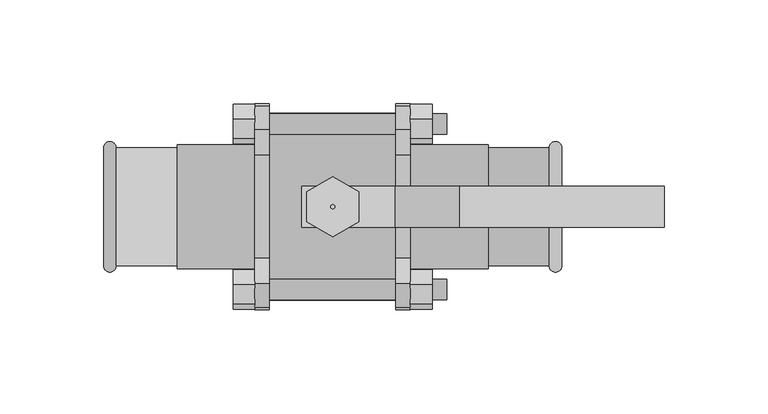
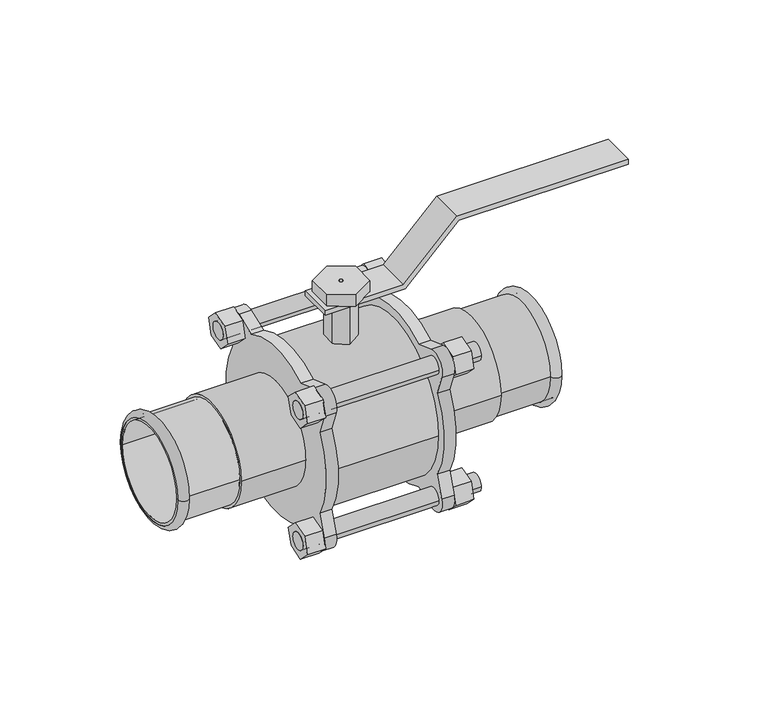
"""IFC4 building model written with IfcOpenShell, lengths in millimetres: valve geometry, NLRS_50_PIA_UN_Geberit Mapress rvs kogelkraan met bedieningshendel, geflensd_PRO_332963 : DN12-100 / d15-108 - OD."""

from ifc_helpers import new_model, si_unit, point, frame, frame_2d, origin, origin_2d, place, context, project, spatial, polyline, circle_curve, ellipse_curve, trimmed, segment, composite_curve, outline, extrude, source, transform, mapped, element, save
from ifc_brep_helpers import plane_surface, cylinder_surface, revolved_surface, advanced_brep


def valve_d77e4738(model_context):
    return source(origin(), model_context, "Body", "SolidModel", [
        extrude(outline(polyline([(68.0, 31.2426407), (99.0, 62.2426407), (99.0, 160.0), (102.0, 160.0), (102.0, 61.0), (71.0, 30.0), (71.0, -15.0), (68.0, -15.0), (68.0, 31.2426407)])), frame((0.0, -10.0, 0.0), z_axis=(0.0, 1.0, 0.0), x_axis=(0.0, 0.0, 1.0)), (0.0, 0.0, 1.0), 20.0),
        advanced_brep(
        [(110.5, -28.5, 0.0), (110.5, 28.5, 0.0), (104.4987073, 28.5, 0.0), (104.4987073, -28.5, 0.0)],
        [
            (0, 1, circle_curve(frame((110.5, 0.0, 0.0), z_axis=(1.0, 0.0, 0.0), x_axis=(0.0, 1.0, 0.0)), 28.5)),
            (1, 2),
            (2, 3, circle_curve(frame((104.4987073, 0.0, 0.0), z_axis=(-1.0, 0.0, 0.0), x_axis=(0.0, 1.0, 0.0)), 28.5)),
            (3, 0),
            (1, 0, circle_curve(frame((110.5, 0.0, 0.0), z_axis=(1.0, 0.0, 0.0), x_axis=(0.0, 1.0, 0.0)), 28.5)),
            (3, 2, circle_curve(frame((104.4987073, 0.0, 0.0), z_axis=(-1.0, 0.0, 0.0), x_axis=(0.0, 1.0, 0.0)), 28.5)),
            (2, 1, circle_curve(frame((107.4993536, 28.5, 0.0), z_axis=(0.0, 0.0, -1.0), x_axis=(1.0, 0.0, 0.0)), 3.0006464)),
            (0, 3, circle_curve(frame((107.4993536, -28.5, 0.0), z_axis=(0.0, 0.0, -1.0), x_axis=(1.0, 0.0, 0.0)), 3.0006464)),
        ],
        [
            revolved_surface(polyline([(104.4987073, 28.5, 0.0), (110.5, 28.5, 0.0)]), (75.0, 0.0, 0.0), (-1.0, 0.0, 0.0)),
            revolved_surface(trimmed(ellipse_curve(frame((107.4993536, 28.5, 0.0), z_axis=(0.0, 0.0, 1.0), x_axis=(1.0, 0.0, 0.0)), 3.0006464, 3.0006464), [point((110.5, 28.5, 0.0))], [point((104.4987073, 28.5, 0.0))], True, "CARTESIAN"), (75.0, 0.0, 0.0), (-1.0, 0.0, 0.0)),
        ],
        [
            (0, [[1, 2, 3, 4]]),
            (0, [[5, -4, 6, -2]]),
            (1, [[-3, 7, -1, 8]]),
            (1, [[-6, -8, -5, -7]]),
        ],
    ),
        advanced_brep(
        [(110.5, -27.0, 0.0), (110.5, 27.0, 0.0), (74.0, 27.0, 0.0), (74.0, -27.0, 0.0), (110.5, -28.5, 0.0), (110.5, 28.5, 0.0), (75.0, -28.5, 0.0), (75.0, 28.5, 0.0)],
        [
            (0, 1, circle_curve(frame((110.5, 0.0, 0.0), z_axis=(1.0, 0.0, 0.0), x_axis=(0.0, 1.0, 0.0)), 27.0)),
            (1, 2),
            (2, 3, circle_curve(frame((74.0, 0.0, 0.0), z_axis=(-1.0, 0.0, 0.0), x_axis=(0.0, 1.0, 0.0)), 27.0)),
            (3, 0),
            (1, 0, circle_curve(frame((110.5, 0.0, 0.0), z_axis=(1.0, 0.0, 0.0), x_axis=(0.0, 1.0, 0.0)), 27.0)),
            (3, 2, circle_curve(frame((74.0, 0.0, 0.0), z_axis=(-1.0, 0.0, 0.0), x_axis=(0.0, 1.0, 0.0)), 27.0)),
            (4, 5, circle_curve(frame((110.5, 0.0, 0.0), z_axis=(1.0, 0.0, 0.0), x_axis=(0.0, 1.0, 0.0)), 28.5)),
            (5, 1),
            (0, 4),
            (5, 4, circle_curve(frame((110.5, 0.0, 0.0), z_axis=(1.0, 0.0, 0.0), x_axis=(0.0, 1.0, 0.0)), 28.5)),
            (6, 7, circle_curve(frame((75.0, 0.0, 0.0), z_axis=(1.0, 0.0, 0.0), x_axis=(0.0, 1.0, 0.0)), 28.5)),
            (7, 5),
            (4, 6),
            (7, 6, circle_curve(frame((75.0, 0.0, 0.0), z_axis=(1.0, 0.0, 0.0), x_axis=(0.0, 1.0, 0.0)), 28.5)),
            (2, 7),
            (6, 3),
        ],
        [
            revolved_surface(polyline([(74.0, 27.0, 0.0), (110.5, 27.0, 0.0)]), (75.0, 0.0, 0.0), (-1.0, 0.0, 0.0)),
            plane_surface(frame((110.5, 0.0, 0.0), z_axis=(1.0, 0.0, 0.0), x_axis=(0.0, 1.0, 0.0))),
            cylinder_surface(frame((75.0, 0.0, 0.0), z_axis=(-1.0, 0.0, 0.0), x_axis=(0.0, 1.0, 0.0)), 28.5),
            revolved_surface(polyline([(75.0, 28.5, 0.0), (74.0, 27.0, 0.0)]), (75.0, 0.0, 0.0), (-1.0, 0.0, 0.0)),
        ],
        [
            (0, [[1, 2, 3, 4]]),
            (0, [[5, -4, 6, -2]]),
            (1, [[7, 8, -1, 9]]),
            (1, [[10, -9, -5, -8]]),
            (2, [[11, 12, -7, 13]]),
            (2, [[14, -13, -10, -12]]),
            (3, [[-3, 15, -11, 16]]),
            (3, [[-6, -16, -14, -15]]),
        ],
    ),
        advanced_brep(
        [(-110.5, 28.5, 0.0), (-110.5, -28.5, 0.0), (-104.4987073, -28.5, 0.0), (-104.4987073, 28.5, 0.0)],
        [
            (0, 1, circle_curve(frame((-110.5, 0.0, 0.0), z_axis=(-1.0, 0.0, 0.0), x_axis=(0.0, -1.0, 0.0)), 28.5)),
            (1, 2),
            (2, 3, circle_curve(frame((-104.4987073, 0.0, 0.0), z_axis=(1.0, 0.0, 0.0), x_axis=(0.0, -1.0, 0.0)), 28.5)),
            (3, 0),
            (1, 0, circle_curve(frame((-110.5, 0.0, 0.0), z_axis=(-1.0, 0.0, 0.0), x_axis=(0.0, -1.0, 0.0)), 28.5)),
            (3, 2, circle_curve(frame((-104.4987073, 0.0, 0.0), z_axis=(1.0, 0.0, 0.0), x_axis=(0.0, -1.0, 0.0)), 28.5)),
            (2, 1, circle_curve(frame((-107.4993536, -28.5, 0.0), z_axis=(0.0, 0.0, -1.0), x_axis=(-1.0, 0.0, 0.0)), 3.0006464)),
            (0, 3, circle_curve(frame((-107.4993536, 28.5, 0.0), z_axis=(0.0, 0.0, -1.0), x_axis=(-1.0, 0.0, 0.0)), 3.0006464)),
        ],
        [
            revolved_surface(polyline([(-104.4987073, -28.5, 0.0), (-110.5, -28.5, 0.0)]), (-75.0, 0.0, 0.0), (1.0, 0.0, 0.0)),
            revolved_surface(trimmed(ellipse_curve(frame((-107.4993536, -28.5, 0.0), z_axis=(0.0, 0.0, 1.0), x_axis=(-1.0, 0.0, 0.0)), 3.0006464, 3.0006464), [point((-110.5, -28.5, 0.0))], [point((-104.4987073, -28.5, 0.0))], True, "CARTESIAN"), (-75.0, 0.0, 0.0), (1.0, 0.0, 0.0)),
        ],
        [
            (0, [[1, 2, 3, 4]]),
            (0, [[5, -4, 6, -2]]),
            (1, [[-3, 7, -1, 8]]),
            (1, [[-6, -8, -5, -7]]),
        ],
    ),
        advanced_brep(
        [(-110.5, 27.0, 0.0), (-110.5, -27.0, 0.0), (-74.0, -27.0, 0.0), (-74.0, 27.0, 0.0), (-110.5, 28.5, 0.0), (-110.5, -28.5, 0.0), (-75.0, 28.5, 0.0), (-75.0, -28.5, 0.0)],
        [
            (0, 1, circle_curve(frame((-110.5, 0.0, 0.0), z_axis=(-1.0, 0.0, 0.0), x_axis=(0.0, -1.0, 0.0)), 27.0)),
            (1, 2),
            (2, 3, circle_curve(frame((-74.0, 0.0, 0.0), z_axis=(1.0, 0.0, 0.0), x_axis=(0.0, -1.0, 0.0)), 27.0)),
            (3, 0),
            (1, 0, circle_curve(frame((-110.5, 0.0, 0.0), z_axis=(-1.0, 0.0, 0.0), x_axis=(0.0, -1.0, 0.0)), 27.0)),
            (3, 2, circle_curve(frame((-74.0, 0.0, 0.0), z_axis=(1.0, 0.0, 0.0), x_axis=(0.0, -1.0, 0.0)), 27.0)),
            (4, 5, circle_curve(frame((-110.5, 0.0, 0.0), z_axis=(-1.0, 0.0, 0.0), x_axis=(0.0, -1.0, 0.0)), 28.5)),
            (5, 1),
            (0, 4),
            (5, 4, circle_curve(frame((-110.5, 0.0, 0.0), z_axis=(-1.0, 0.0, 0.0), x_axis=(0.0, -1.0, 0.0)), 28.5)),
            (6, 7, circle_curve(frame((-75.0, 0.0, 0.0), z_axis=(-1.0, 0.0, 0.0), x_axis=(0.0, -1.0, 0.0)), 28.5)),
            (7, 5),
            (4, 6),
            (7, 6, circle_curve(frame((-75.0, 0.0, 0.0), z_axis=(-1.0, 0.0, 0.0), x_axis=(0.0, -1.0, 0.0)), 28.5)),
            (2, 7),
            (6, 3),
        ],
        [
            revolved_surface(polyline([(-74.0, -27.0, 0.0), (-110.5, -27.0, 0.0)]), (-75.0, 0.0, 0.0), (1.0, 0.0, 0.0)),
            plane_surface(frame((-110.5, 0.0, 0.0), z_axis=(-1.0, 0.0, 0.0), x_axis=(0.0, -1.0, 0.0))),
            cylinder_surface(frame((-75.0, 0.0, 0.0), z_axis=(1.0, 0.0, 0.0), x_axis=(0.0, -1.0, 0.0)), 28.5),
            revolved_surface(polyline([(-75.0, -28.5, 0.0), (-74.0, -27.0, 0.0)]), (-75.0, 0.0, 0.0), (1.0, 0.0, 0.0)),
        ],
        [
            (0, [[1, 2, 3, 4]]),
            (0, [[5, -4, 6, -2]]),
            (1, [[7, 8, -1, 9]]),
            (1, [[10, -9, -5, -8]]),
            (2, [[11, 12, -7, 13]]),
            (2, [[14, -13, -10, -12]]),
            (3, [[-3, 15, -11, 16]]),
            (3, [[-6, -16, -14, -15]]),
        ],
    ),
        advanced_brep(
        [(-48.0, -44.9515331, 39.9515331), (-48.0, -34.9515331, 39.9515331), (-48.0, 34.9515331, 39.9515331), (-48.0, 44.9515331, 39.9515331), (-48.0, -44.9515331, -39.9515331), (-48.0, -34.9515331, -39.9515331), (-48.0, 34.9515331, -39.9515331), (-48.0, 44.9515331, -39.9515331), (55.0, -44.9515331, 39.9515331), (55.0, -34.9515331, 39.9515331), (55.0, 34.9515331, 39.9515331), (55.0, 44.9515331, 39.9515331), (55.0, -44.9515331, -39.9515331), (55.0, -34.9515331, -39.9515331), (55.0, 34.9515331, -39.9515331), (55.0, 44.9515331, -39.9515331), (-37.5, -44.9515331, 39.9515331), (-37.5, -34.9515331, 39.9515331), (37.5, -34.9515331, 39.9515331), (37.5, -44.9515331, 39.9515331), (30.5, -44.9515331, 39.9515331), (30.5, -34.9515331, 39.9515331), (-30.5, -34.9515331, 39.9515331), (-30.5, -44.9515331, 39.9515331), (-37.5, 34.9515331, 39.9515331), (-37.5, 44.9515331, 39.9515331), (37.5, 44.9515331, 39.9515331), (37.5, 34.9515331, 39.9515331), (30.5, 34.9515331, 39.9515331), (30.5, 44.9515331, 39.9515331), (-30.5, 44.9515331, 39.9515331), (-30.5, 34.9515331, 39.9515331), (-37.5, -44.9515331, -39.9515331), (-37.5, -34.9515331, -39.9515331), (37.5, -34.9515331, -39.9515331), (37.5, -44.9515331, -39.9515331), (30.5, -44.9515331, -39.9515331), (30.5, -34.9515331, -39.9515331), (-30.5, -34.9515331, -39.9515331), (-30.5, -44.9515331, -39.9515331), (-37.5, 34.9515331, -39.9515331), (-37.5, 44.9515331, -39.9515331), (37.5, 44.9515331, -39.9515331), (37.5, 34.9515331, -39.9515331), (30.5, 34.9515331, -39.9515331), (30.5, 44.9515331, -39.9515331), (-30.5, 44.9515331, -39.9515331), (-30.5, 34.9515331, -39.9515331), (30.5, -43.4565382, 24.7291181), (30.5, -47.9389204, 37.0443619), (30.5, -37.0443619, 47.9389204), (30.5, -24.7291181, 43.4565382), (30.5, 24.7291181, 43.4565382), (30.5, 37.0443619, 47.9389204), (30.5, 47.9389204, 37.0443619), (30.5, 43.4565382, 24.7291181), (30.5, 43.4565382, -24.7291181), (30.5, 47.9389204, -37.0443619), (30.5, 37.0443619, -47.9389204), (30.5, 24.7291181, -43.4565382), (30.5, -24.7291181, -43.4565382), (30.5, -37.0443619, -47.9389204), (30.5, -47.9389204, -37.0443619), (30.5, -43.4565382, -24.7291181), (37.5, -43.4565382, 24.7291181), (37.5, -43.4565382, -24.7291181), (37.5, -47.9389204, -37.0443619), (37.5, -37.0443619, -47.9389204), (37.5, -24.7291181, -43.4565382), (37.5, 24.7291181, -43.4565382), (37.5, 37.0443619, -47.9389204), (37.5, 47.9389204, -37.0443619), (37.5, 43.4565382, -24.7291181), (37.5, 43.4565382, 24.7291181), (37.5, 47.9389204, 37.0443619), (37.5, 37.0443619, 47.9389204), (37.5, 24.7291181, 43.4565382), (37.5, -24.7291181, 43.4565382), (37.5, -37.0443619, 47.9389204), (37.5, -47.9389204, 37.0443619), (-37.5, -43.4565382, 24.7291181), (-37.5, -47.9389204, 37.0443619), (-37.5, -37.0443619, 47.9389204), (-37.5, -24.7291181, 43.4565382), (-37.5, 24.7291181, 43.4565382), (-37.5, 37.0443619, 47.9389204), (-37.5, 47.9389204, 37.0443619), (-37.5, 43.4565382, 24.7291181), (-37.5, 43.4565382, -24.7291181), (-37.5, 47.9389204, -37.0443619), (-37.5, 37.0443619, -47.9389204), (-37.5, 24.7291181, -43.4565382), (-37.5, -24.7291181, -43.4565382), (-37.5, -37.0443619, -47.9389204), (-37.5, -47.9389204, -37.0443619), (-37.5, -43.4565382, -24.7291181), (-30.5, -43.4565382, 24.7291181), (-30.5, -43.4565382, -24.7291181), (-30.5, -47.9389204, -37.0443619), (-30.5, -37.0443619, -47.9389204), (-30.5, -24.7291181, -43.4565382), (-30.5, 24.7291181, -43.4565382), (-30.5, 37.0443619, -47.9389204), (-30.5, 47.9389204, -37.0443619), (-30.5, 43.4565382, -24.7291181), (-30.5, 43.4565382, 24.7291181), (-30.5, 47.9389204, 37.0443619), (-30.5, 37.0443619, 47.9389204), (-30.5, 24.7291181, 43.4565382), (-30.5, -24.7291181, 43.4565382), (-30.5, -37.0443619, 47.9389204), (-30.5, -47.9389204, 37.0443619)],
        [
            (0, 1, circle_curve(frame((-48.0, -39.9515331, 39.9515331), z_axis=(-1.0, 0.0, 0.0), x_axis=(0.0, 1.0, 0.0)), 5.0)),
            (1, 0, circle_curve(frame((-48.0, -39.9515331, 39.9515331), z_axis=(-1.0, 0.0, 0.0), x_axis=(0.0, 1.0, 0.0)), 5.0)),
            (2, 3, circle_curve(frame((-48.0, 39.9515331, 39.9515331), z_axis=(-1.0, 0.0, 0.0), x_axis=(0.0, 1.0, 0.0)), 5.0)),
            (3, 2, circle_curve(frame((-48.0, 39.9515331, 39.9515331), z_axis=(-1.0, 0.0, 0.0), x_axis=(0.0, 1.0, 0.0)), 5.0)),
            (4, 5, circle_curve(frame((-48.0, -39.9515331, -39.9515331), z_axis=(-1.0, 0.0, 0.0), x_axis=(0.0, 1.0, 0.0)), 5.0)),
            (5, 4, circle_curve(frame((-48.0, -39.9515331, -39.9515331), z_axis=(-1.0, 0.0, 0.0), x_axis=(0.0, 1.0, 0.0)), 5.0)),
            (6, 7, circle_curve(frame((-48.0, 39.9515331, -39.9515331), z_axis=(-1.0, 0.0, 0.0), x_axis=(0.0, 1.0, 0.0)), 5.0)),
            (7, 6, circle_curve(frame((-48.0, 39.9515331, -39.9515331), z_axis=(-1.0, 0.0, 0.0), x_axis=(0.0, 1.0, 0.0)), 5.0)),
            (8, 9, circle_curve(frame((55.0, -39.9515331, 39.9515331), z_axis=(1.0, 0.0, 0.0), x_axis=(0.0, 1.0, 0.0)), 5.0)),
            (9, 8, circle_curve(frame((55.0, -39.9515331, 39.9515331), z_axis=(1.0, 0.0, 0.0), x_axis=(0.0, 1.0, 0.0)), 5.0)),
            (10, 11, circle_curve(frame((55.0, 39.9515331, 39.9515331), z_axis=(1.0, 0.0, 0.0), x_axis=(0.0, 1.0, 0.0)), 5.0)),
            (11, 10, circle_curve(frame((55.0, 39.9515331, 39.9515331), z_axis=(1.0, 0.0, 0.0), x_axis=(0.0, 1.0, 0.0)), 5.0)),
            (12, 13, circle_curve(frame((55.0, -39.9515331, -39.9515331), z_axis=(1.0, 0.0, 0.0), x_axis=(0.0, 1.0, 0.0)), 5.0)),
            (13, 12, circle_curve(frame((55.0, -39.9515331, -39.9515331), z_axis=(1.0, 0.0, 0.0), x_axis=(0.0, 1.0, 0.0)), 5.0)),
            (14, 15, circle_curve(frame((55.0, 39.9515331, -39.9515331), z_axis=(1.0, 0.0, 0.0), x_axis=(0.0, 1.0, 0.0)), 5.0)),
            (15, 14, circle_curve(frame((55.0, 39.9515331, -39.9515331), z_axis=(1.0, 0.0, 0.0), x_axis=(0.0, 1.0, 0.0)), 5.0)),
            (0, 16),
            (16, 17, circle_curve(frame((-37.5, -39.9515331, 39.9515331), z_axis=(-1.0, 0.0, 0.0), x_axis=(0.0, 1.0, 0.0)), 5.0)),
            (17, 1),
            (9, 18),
            (18, 19, circle_curve(frame((37.5, -39.9515331, 39.9515331), z_axis=(1.0, 0.0, 0.0), x_axis=(0.0, 1.0, 0.0)), 5.0)),
            (19, 8),
            (20, 21, circle_curve(frame((30.5, -39.9515331, 39.9515331), z_axis=(-1.0, 0.0, 0.0), x_axis=(0.0, 1.0, 0.0)), 5.0)),
            (21, 22),
            (22, 23, circle_curve(frame((-30.5, -39.9515331, 39.9515331), z_axis=(1.0, 0.0, 0.0), x_axis=(0.0, 1.0, 0.0)), 5.0)),
            (23, 20),
            (17, 16, circle_curve(frame((-37.5, -39.9515331, 39.9515331), z_axis=(-1.0, 0.0, 0.0), x_axis=(0.0, 1.0, 0.0)), 5.0)),
            (19, 18, circle_curve(frame((37.5, -39.9515331, 39.9515331), z_axis=(1.0, 0.0, 0.0), x_axis=(0.0, 1.0, 0.0)), 5.0)),
            (21, 20, circle_curve(frame((30.5, -39.9515331, 39.9515331), z_axis=(-1.0, 0.0, 0.0), x_axis=(0.0, 1.0, 0.0)), 5.0)),
            (23, 22, circle_curve(frame((-30.5, -39.9515331, 39.9515331), z_axis=(1.0, 0.0, 0.0), x_axis=(0.0, 1.0, 0.0)), 5.0)),
            (2, 24),
            (24, 25, circle_curve(frame((-37.5, 39.9515331, 39.9515331), z_axis=(-1.0, 0.0, 0.0), x_axis=(0.0, 1.0, 0.0)), 5.0)),
            (25, 3),
            (11, 26),
            (26, 27, circle_curve(frame((37.5, 39.9515331, 39.9515331), z_axis=(1.0, 0.0, 0.0), x_axis=(0.0, 1.0, 0.0)), 5.0)),
            (27, 10),
            (28, 29, circle_curve(frame((30.5, 39.9515331, 39.9515331), z_axis=(-1.0, 0.0, 0.0), x_axis=(0.0, 1.0, 0.0)), 5.0)),
            (29, 30),
            (30, 31, circle_curve(frame((-30.5, 39.9515331, 39.9515331), z_axis=(1.0, 0.0, 0.0), x_axis=(0.0, 1.0, 0.0)), 5.0)),
            (31, 28),
            (25, 24, circle_curve(frame((-37.5, 39.9515331, 39.9515331), z_axis=(-1.0, 0.0, 0.0), x_axis=(0.0, 1.0, 0.0)), 5.0)),
            (27, 26, circle_curve(frame((37.5, 39.9515331, 39.9515331), z_axis=(1.0, 0.0, 0.0), x_axis=(0.0, 1.0, 0.0)), 5.0)),
            (29, 28, circle_curve(frame((30.5, 39.9515331, 39.9515331), z_axis=(-1.0, 0.0, 0.0), x_axis=(0.0, 1.0, 0.0)), 5.0)),
            (31, 30, circle_curve(frame((-30.5, 39.9515331, 39.9515331), z_axis=(1.0, 0.0, 0.0), x_axis=(0.0, 1.0, 0.0)), 5.0)),
            (4, 32),
            (32, 33, circle_curve(frame((-37.5, -39.9515331, -39.9515331), z_axis=(-1.0, 0.0, 0.0), x_axis=(0.0, 1.0, 0.0)), 5.0)),
            (33, 5),
            (13, 34),
            (34, 35, circle_curve(frame((37.5, -39.9515331, -39.9515331), z_axis=(1.0, 0.0, 0.0), x_axis=(0.0, 1.0, 0.0)), 5.0)),
            (35, 12),
            (36, 37, circle_curve(frame((30.5, -39.9515331, -39.9515331), z_axis=(-1.0, 0.0, 0.0), x_axis=(0.0, 1.0, 0.0)), 5.0)),
            (37, 38),
            (38, 39, circle_curve(frame((-30.5, -39.9515331, -39.9515331), z_axis=(1.0, 0.0, 0.0), x_axis=(0.0, 1.0, 0.0)), 5.0)),
            (39, 36),
            (33, 32, circle_curve(frame((-37.5, -39.9515331, -39.9515331), z_axis=(-1.0, 0.0, 0.0), x_axis=(0.0, 1.0, 0.0)), 5.0)),
            (35, 34, circle_curve(frame((37.5, -39.9515331, -39.9515331), z_axis=(1.0, 0.0, 0.0), x_axis=(0.0, 1.0, 0.0)), 5.0)),
            (37, 36, circle_curve(frame((30.5, -39.9515331, -39.9515331), z_axis=(-1.0, 0.0, 0.0), x_axis=(0.0, 1.0, 0.0)), 5.0)),
            (39, 38, circle_curve(frame((-30.5, -39.9515331, -39.9515331), z_axis=(1.0, 0.0, 0.0), x_axis=(0.0, 1.0, 0.0)), 5.0)),
            (6, 40),
            (40, 41, circle_curve(frame((-37.5, 39.9515331, -39.9515331), z_axis=(-1.0, 0.0, 0.0), x_axis=(0.0, 1.0, 0.0)), 5.0)),
            (41, 7),
            (15, 42),
            (42, 43, circle_curve(frame((37.5, 39.9515331, -39.9515331), z_axis=(1.0, 0.0, 0.0), x_axis=(0.0, 1.0, 0.0)), 5.0)),
            (43, 14),
            (44, 45, circle_curve(frame((30.5, 39.9515331, -39.9515331), z_axis=(-1.0, 0.0, 0.0), x_axis=(0.0, 1.0, 0.0)), 5.0)),
            (45, 46),
            (46, 47, circle_curve(frame((-30.5, 39.9515331, -39.9515331), z_axis=(1.0, 0.0, 0.0), x_axis=(0.0, 1.0, 0.0)), 5.0)),
            (47, 44),
            (41, 40, circle_curve(frame((-37.5, 39.9515331, -39.9515331), z_axis=(-1.0, 0.0, 0.0), x_axis=(0.0, 1.0, 0.0)), 5.0)),
            (43, 42, circle_curve(frame((37.5, 39.9515331, -39.9515331), z_axis=(1.0, 0.0, 0.0), x_axis=(0.0, 1.0, 0.0)), 5.0)),
            (45, 44, circle_curve(frame((30.5, 39.9515331, -39.9515331), z_axis=(-1.0, 0.0, 0.0), x_axis=(0.0, 1.0, 0.0)), 5.0)),
            (47, 46, circle_curve(frame((-30.5, 39.9515331, -39.9515331), z_axis=(1.0, 0.0, 0.0), x_axis=(0.0, 1.0, 0.0)), 5.0)),
            (48, 49),
            (49, 50, circle_curve(frame((30.5, -39.9515331, 39.9515331), z_axis=(-1.0, 0.0, 0.0), x_axis=(0.0, 1.0, 0.0)), 8.5)),
            (50, 51),
            (51, 52, circle_curve(frame((30.5, 0.0, 0.0), z_axis=(-1.0, 0.0, 0.0), x_axis=(0.0, 1.0, 0.0)), 50.0)),
            (52, 53),
            (53, 54, circle_curve(frame((30.5, 39.9515331, 39.9515331), z_axis=(-1.0, 0.0, 0.0), x_axis=(0.0, 1.0, 0.0)), 8.5)),
            (54, 55),
            (55, 56, circle_curve(frame((30.5, 0.0, 0.0), z_axis=(-1.0, 0.0, 0.0), x_axis=(0.0, 1.0, 0.0)), 50.0)),
            (56, 57),
            (57, 58, circle_curve(frame((30.5, 39.9515331, -39.9515331), z_axis=(-1.0, 0.0, 0.0), x_axis=(0.0, 1.0, 0.0)), 8.5)),
            (58, 59),
            (59, 60, circle_curve(frame((30.5, 0.0, 0.0), z_axis=(-1.0, 0.0, 0.0), x_axis=(0.0, 1.0, 0.0)), 50.0)),
            (60, 61),
            (61, 62, circle_curve(frame((30.5, -39.9515331, -39.9515331), z_axis=(-1.0, 0.0, 0.0), x_axis=(0.0, 1.0, 0.0)), 8.5)),
            (62, 63),
            (63, 48, circle_curve(frame((30.5, 0.0, 0.0), z_axis=(-1.0, 0.0, 0.0), x_axis=(0.0, 1.0, 0.0)), 50.0)),
            (64, 65, circle_curve(frame((37.5, 0.0, 0.0), z_axis=(1.0, 0.0, 0.0), x_axis=(0.0, 1.0, 0.0)), 50.0)),
            (65, 66),
            (66, 67, circle_curve(frame((37.5, -39.9515331, -39.9515331), z_axis=(1.0, 0.0, 0.0), x_axis=(0.0, 1.0, 0.0)), 8.5)),
            (67, 68),
            (68, 69, circle_curve(frame((37.5, 0.0, 0.0), z_axis=(1.0, 0.0, 0.0), x_axis=(0.0, 1.0, 0.0)), 50.0)),
            (69, 70),
            (70, 71, circle_curve(frame((37.5, 39.9515331, -39.9515331), z_axis=(1.0, 0.0, 0.0), x_axis=(0.0, 1.0, 0.0)), 8.5)),
            (71, 72),
            (72, 73, circle_curve(frame((37.5, 0.0, 0.0), z_axis=(1.0, 0.0, 0.0), x_axis=(0.0, 1.0, 0.0)), 50.0)),
            (73, 74),
            (74, 75, circle_curve(frame((37.5, 39.9515331, 39.9515331), z_axis=(1.0, 0.0, 0.0), x_axis=(0.0, 1.0, 0.0)), 8.5)),
            (75, 76),
            (76, 77, circle_curve(frame((37.5, 0.0, 0.0), z_axis=(1.0, 0.0, 0.0), x_axis=(0.0, 1.0, 0.0)), 50.0)),
            (77, 78),
            (78, 79, circle_curve(frame((37.5, -39.9515331, 39.9515331), z_axis=(1.0, 0.0, 0.0), x_axis=(0.0, 1.0, 0.0)), 8.5)),
            (79, 64),
            (48, 64),
            (79, 49),
            (78, 50),
            (77, 51),
            (76, 52),
            (75, 53),
            (74, 54),
            (73, 55),
            (72, 56),
            (71, 57),
            (70, 58),
            (69, 59),
            (68, 60),
            (67, 61),
            (66, 62),
            (65, 63),
            (80, 81),
            (81, 82, circle_curve(frame((-37.5, -39.9515331, 39.9515331), z_axis=(-1.0, 0.0, 0.0), x_axis=(0.0, 1.0, 0.0)), 8.5)),
            (82, 83),
            (83, 84, circle_curve(frame((-37.5, 0.0, 0.0), z_axis=(-1.0, 0.0, 0.0), x_axis=(0.0, 1.0, 0.0)), 50.0)),
            (84, 85),
            (85, 86, circle_curve(frame((-37.5, 39.9515331, 39.9515331), z_axis=(-1.0, 0.0, 0.0), x_axis=(0.0, 1.0, 0.0)), 8.5)),
            (86, 87),
            (87, 88, circle_curve(frame((-37.5, 0.0, 0.0), z_axis=(-1.0, 0.0, 0.0), x_axis=(0.0, 1.0, 0.0)), 50.0)),
            (88, 89),
            (89, 90, circle_curve(frame((-37.5, 39.9515331, -39.9515331), z_axis=(-1.0, 0.0, 0.0), x_axis=(0.0, 1.0, 0.0)), 8.5)),
            (90, 91),
            (91, 92, circle_curve(frame((-37.5, 0.0, 0.0), z_axis=(-1.0, 0.0, 0.0), x_axis=(0.0, 1.0, 0.0)), 50.0)),
            (92, 93),
            (93, 94, circle_curve(frame((-37.5, -39.9515331, -39.9515331), z_axis=(-1.0, 0.0, 0.0), x_axis=(0.0, 1.0, 0.0)), 8.5)),
            (94, 95),
            (95, 80, circle_curve(frame((-37.5, 0.0, 0.0), z_axis=(-1.0, 0.0, 0.0), x_axis=(0.0, 1.0, 0.0)), 50.0)),
            (96, 97, circle_curve(frame((-30.5, 0.0, 0.0), z_axis=(1.0, 0.0, 0.0), x_axis=(0.0, 1.0, 0.0)), 50.0)),
            (97, 98),
            (98, 99, circle_curve(frame((-30.5, -39.9515331, -39.9515331), z_axis=(1.0, 0.0, 0.0), x_axis=(0.0, 1.0, 0.0)), 8.5)),
            (99, 100),
            (100, 101, circle_curve(frame((-30.5, 0.0, 0.0), z_axis=(1.0, 0.0, 0.0), x_axis=(0.0, 1.0, 0.0)), 50.0)),
            (101, 102),
            (102, 103, circle_curve(frame((-30.5, 39.9515331, -39.9515331), z_axis=(1.0, 0.0, 0.0), x_axis=(0.0, 1.0, 0.0)), 8.5)),
            (103, 104),
            (104, 105, circle_curve(frame((-30.5, 0.0, 0.0), z_axis=(1.0, 0.0, 0.0), x_axis=(0.0, 1.0, 0.0)), 50.0)),
            (105, 106),
            (106, 107, circle_curve(frame((-30.5, 39.9515331, 39.9515331), z_axis=(1.0, 0.0, 0.0), x_axis=(0.0, 1.0, 0.0)), 8.5)),
            (107, 108),
            (108, 109, circle_curve(frame((-30.5, 0.0, 0.0), z_axis=(1.0, 0.0, 0.0), x_axis=(0.0, 1.0, 0.0)), 50.0)),
            (109, 110),
            (110, 111, circle_curve(frame((-30.5, -39.9515331, 39.9515331), z_axis=(1.0, 0.0, 0.0), x_axis=(0.0, 1.0, 0.0)), 8.5)),
            (111, 96),
            (80, 96),
            (111, 81),
            (110, 82),
            (109, 83),
            (108, 84),
            (107, 85),
            (106, 86),
            (105, 87),
            (104, 88),
            (103, 89),
            (102, 90),
            (101, 91),
            (100, 92),
            (99, 93),
            (98, 94),
            (97, 95),
        ],
        [
            plane_surface(frame((-48.0, 0.0, 0.0), z_axis=(-1.0, 0.0, 0.0), x_axis=(0.0, 0.0, 1.0))),
            plane_surface(frame((55.0, 0.0, 0.0), z_axis=(1.0, 0.0, 0.0), x_axis=(0.0, 0.0, 1.0))),
            cylinder_surface(frame((-48.0, -39.9515331, 39.9515331), z_axis=(-1.0, 0.0, 0.0), x_axis=(0.0, 1.0, 0.0)), 5.0),
            cylinder_surface(frame((-48.0, 39.9515331, 39.9515331), z_axis=(-1.0, 0.0, 0.0), x_axis=(0.0, 1.0, 0.0)), 5.0),
            cylinder_surface(frame((-48.0, -39.9515331, -39.9515331), z_axis=(-1.0, 0.0, 0.0), x_axis=(0.0, 1.0, 0.0)), 5.0),
            cylinder_surface(frame((-48.0, 39.9515331, -39.9515331), z_axis=(-1.0, 0.0, 0.0), x_axis=(0.0, 1.0, 0.0)), 5.0),
            plane_surface(frame((30.5, 0.0, 0.0), z_axis=(-1.0, 0.0, 0.0), x_axis=(0.0, 0.0, 1.0))),
            plane_surface(frame((37.5, 0.0, 0.0), z_axis=(1.0, 0.0, 0.0), x_axis=(0.0, 0.0, 1.0))),
            plane_surface(frame((30.5, -43.4565382, 24.7291181), z_axis=(0.0, -0.9396926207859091, -0.3420201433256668), x_axis=(1.0, 0.0, 0.0))),
            cylinder_surface(frame((30.5, -39.9515331, 39.9515331), z_axis=(-1.0, 0.0, 0.0), x_axis=(0.0, 1.0, 0.0)), 8.5),
            plane_surface(frame((30.5, -37.0443619, 47.9389204), z_axis=(0.0, 0.34202014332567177, 0.9396926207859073), x_axis=(1.0, 0.0, 0.0))),
            cylinder_surface(frame((30.5, 0.0, 0.0), z_axis=(-1.0, 0.0, 0.0), x_axis=(0.0, 1.0, 0.0)), 50.0),
            plane_surface(frame((30.5, 24.7291181, 43.4565382), z_axis=(0.0, -0.34202014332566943, 0.9396926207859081), x_axis=(1.0, 0.0, 0.0))),
            cylinder_surface(frame((30.5, 39.9515331, 39.9515331), z_axis=(-1.0, 0.0, 0.0), x_axis=(0.0, 1.0, 0.0)), 8.5),
            plane_surface(frame((30.5, 47.9389204, 37.0443619), z_axis=(0.0, 0.9396926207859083, -0.34202014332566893), x_axis=(1.0, 0.0, 0.0))),
            plane_surface(frame((30.5, 43.4565382, -24.7291181), z_axis=(0.0, 0.9396926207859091, 0.34202014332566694), x_axis=(1.0, 0.0, 0.0))),
            cylinder_surface(frame((30.5, 39.9515331, -39.9515331), z_axis=(-1.0, 0.0, 0.0), x_axis=(0.0, 1.0, 0.0)), 8.5),
            plane_surface(frame((30.5, 37.0443619, -47.9389204), z_axis=(0.0, -0.3420201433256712, -0.9396926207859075), x_axis=(1.0, 0.0, 0.0))),
            plane_surface(frame((30.5, -24.7291181, -43.4565382), z_axis=(0.0, 0.34202014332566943, -0.9396926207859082), x_axis=(1.0, 0.0, 0.0))),
            cylinder_surface(frame((30.5, -39.9515331, -39.9515331), z_axis=(-1.0, 0.0, 0.0), x_axis=(0.0, 1.0, 0.0)), 8.5),
            plane_surface(frame((30.5, -47.9389204, -37.0443619), z_axis=(0.0, -0.9396926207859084, 0.34202014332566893), x_axis=(1.0, 0.0, 0.0))),
            plane_surface(frame((-37.5, 0.0, 0.0), z_axis=(-1.0, 0.0, 0.0), x_axis=(0.0, 0.0, 1.0))),
            plane_surface(frame((-30.5, 0.0, 0.0), z_axis=(1.0, 0.0, 0.0), x_axis=(0.0, 0.0, 1.0))),
            plane_surface(frame((-37.5, -43.4565382, 24.7291181), z_axis=(0.0, -0.9396926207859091, -0.3420201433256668), x_axis=(1.0, 0.0, 0.0))),
            cylinder_surface(frame((-37.5, -39.9515331, 39.9515331), z_axis=(-1.0, 0.0, 0.0), x_axis=(0.0, 1.0, 0.0)), 8.5),
            plane_surface(frame((-37.5, -37.0443619, 47.9389204), z_axis=(0.0, 0.34202014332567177, 0.9396926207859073), x_axis=(1.0, 0.0, 0.0))),
            cylinder_surface(frame((-37.5, 0.0, 0.0), z_axis=(-1.0, 0.0, 0.0), x_axis=(0.0, 1.0, 0.0)), 50.0),
            plane_surface(frame((-37.5, 24.7291181, 43.4565382), z_axis=(0.0, -0.34202014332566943, 0.9396926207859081), x_axis=(1.0, 0.0, 0.0))),
            cylinder_surface(frame((-37.5, 39.9515331, 39.9515331), z_axis=(-1.0, 0.0, 0.0), x_axis=(0.0, 1.0, 0.0)), 8.5),
            plane_surface(frame((-37.5, 47.9389204, 37.0443619), z_axis=(0.0, 0.9396926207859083, -0.34202014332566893), x_axis=(1.0, 0.0, 0.0))),
            plane_surface(frame((-37.5, 43.4565382, -24.7291181), z_axis=(0.0, 0.9396926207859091, 0.34202014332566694), x_axis=(1.0, 0.0, 0.0))),
            cylinder_surface(frame((-37.5, 39.9515331, -39.9515331), z_axis=(-1.0, 0.0, 0.0), x_axis=(0.0, 1.0, 0.0)), 8.5),
            plane_surface(frame((-37.5, 37.0443619, -47.9389204), z_axis=(0.0, -0.3420201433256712, -0.9396926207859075), x_axis=(1.0, 0.0, 0.0))),
            plane_surface(frame((-37.5, -24.7291181, -43.4565382), z_axis=(0.0, 0.34202014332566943, -0.9396926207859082), x_axis=(1.0, 0.0, 0.0))),
            cylinder_surface(frame((-37.5, -39.9515331, -39.9515331), z_axis=(-1.0, 0.0, 0.0), x_axis=(0.0, 1.0, 0.0)), 8.5),
            plane_surface(frame((-37.5, -47.9389204, -37.0443619), z_axis=(0.0, -0.9396926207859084, 0.34202014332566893), x_axis=(1.0, 0.0, 0.0))),
        ],
        [
            (0, [[1, 2]]),
            (0, [[3, 4]]),
            (0, [[5, 6]]),
            (0, [[7, 8]]),
            (1, [[9, 10]]),
            (1, [[11, 12]]),
            (1, [[13, 14]]),
            (1, [[15, 16]]),
            (2, [[-1, 17, 18, 19]]),
            (2, [[-10, 20, 21, 22]]),
            (2, [[23, 24, 25, 26]]),
            (2, [[-2, -19, 27, -17]]),
            (2, [[-9, -22, 28, -20]]),
            (2, [[29, -26, 30, -24]]),
            (3, [[-3, 31, 32, 33]]),
            (3, [[-12, 34, 35, 36]]),
            (3, [[37, 38, 39, 40]]),
            (3, [[-4, -33, 41, -31]]),
            (3, [[-11, -36, 42, -34]]),
            (3, [[43, -40, 44, -38]]),
            (4, [[-5, 45, 46, 47]]),
            (4, [[-14, 48, 49, 50]]),
            (4, [[51, 52, 53, 54]]),
            (4, [[-6, -47, 55, -45]]),
            (4, [[-13, -50, 56, -48]]),
            (4, [[57, -54, 58, -52]]),
            (5, [[-7, 59, 60, 61]]),
            (5, [[-16, 62, 63, 64]]),
            (5, [[65, 66, 67, 68]]),
            (5, [[-8, -61, 69, -59]]),
            (5, [[-15, -64, 70, -62]]),
            (5, [[71, -68, 72, -66]]),
            (6, [[73, 74, 75, 76, 77, 78, 79, 80, 81, 82, 83, 84, 85, 86, 87, 88], [-23, -29], [-37, -43], [-51, -57], [-65, -71]]),
            (7, [[89, 90, 91, 92, 93, 94, 95, 96, 97, 98, 99, 100, 101, 102, 103, 104], [-21, -28], [-35, -42], [-49, -56], [-63, -70]]),
            (8, [[-73, 105, -104, 106]]),
            (9, [[-74, -106, -103, 107]]),
            (10, [[-75, -107, -102, 108]]),
            (11, [[-76, -108, -101, 109]]),
            (12, [[-77, -109, -100, 110]]),
            (13, [[-78, -110, -99, 111]]),
            (14, [[-79, -111, -98, 112]]),
            (11, [[-80, -112, -97, 113]]),
            (15, [[-81, -113, -96, 114]]),
            (16, [[-82, -114, -95, 115]]),
            (17, [[-83, -115, -94, 116]]),
            (11, [[-84, -116, -93, 117]]),
            (18, [[-85, -117, -92, 118]]),
            (19, [[-86, -118, -91, 119]]),
            (20, [[-87, -119, -90, 120]]),
            (11, [[-88, -120, -89, -105]]),
            (21, [[121, 122, 123, 124, 125, 126, 127, 128, 129, 130, 131, 132, 133, 134, 135, 136], [-18, -27], [-32, -41], [-46, -55], [-60, -69]]),
            (22, [[137, 138, 139, 140, 141, 142, 143, 144, 145, 146, 147, 148, 149, 150, 151, 152], [-25, -30], [-39, -44], [-53, -58], [-67, -72]]),
            (23, [[-121, 153, -152, 154]]),
            (24, [[-122, -154, -151, 155]]),
            (25, [[-123, -155, -150, 156]]),
            (26, [[-124, -156, -149, 157]]),
            (27, [[-125, -157, -148, 158]]),
            (28, [[-126, -158, -147, 159]]),
            (29, [[-127, -159, -146, 160]]),
            (26, [[-128, -160, -145, 161]]),
            (30, [[-129, -161, -144, 162]]),
            (31, [[-130, -162, -143, 163]]),
            (32, [[-131, -163, -142, 164]]),
            (26, [[-132, -164, -141, 165]]),
            (33, [[-133, -165, -140, 166]]),
            (34, [[-134, -166, -139, 167]]),
            (35, [[-135, -167, -138, 168]]),
            (26, [[-136, -168, -137, -153]]),
        ],
    ),
        advanced_brep(
        [(-30.5, -45.0, 0.0), (-30.5, 45.0, 0.0), (30.5, -45.0, 0.0), (30.5, 45.0, 0.0), (0.0, -8.660254, 44.1588043), (-7.5, -4.330127, 44.7911822), (-7.5, 4.330127, 44.7911822), (0.0, 8.660254, 44.1588043), (7.5, 4.330127, 44.7911822), (7.5, -4.330127, 44.7911822), (-1.0, -0.5773503, 44.9962961), (0.0, -1.1547005, 44.9851827), (1.0, -0.5773503, 44.9962961), (1.0, 0.5773503, 44.9962961), (0.0, 1.1547005, 44.9851827), (-1.0, 0.5773503, 44.9962961), (-12.5, -7.2168784, 78.0), (-12.5, -7.2168784, 71.0), (0.0, -14.4337567, 71.0), (0.0, -14.4337567, 78.0), (-1.0, -0.5773503, 78.0), (0.0, -1.1547005, 78.0), (0.0, -8.660254, 71.0), (-7.5, -4.330127, 71.0), (12.5, -7.2168784, 71.0), (12.5, -7.2168784, 78.0), (1.0, -0.5773503, 78.0), (7.5, -4.330127, 71.0), (12.5, 7.2168784, 78.0), (12.5, 7.2168784, 71.0), (0.0, 14.4337567, 71.0), (0.0, 14.4337567, 78.0), (1.0, 0.5773503, 78.0), (0.0, 1.1547005, 78.0), (0.0, 8.660254, 71.0), (7.5, 4.330127, 71.0), (-12.5, 7.2168784, 71.0), (-12.5, 7.2168784, 78.0), (-1.0, 0.5773503, 78.0), (-7.5, 4.330127, 71.0)],
        [
            (0, 1, circle_curve(frame((-30.5, 0.0, 0.0), z_axis=(-1.0, 0.0, 0.0), x_axis=(0.0, 1.0, 0.0)), 45.0)),
            (1, 0, circle_curve(frame((-30.5, 0.0, 0.0), z_axis=(-1.0, 0.0, 0.0), x_axis=(0.0, 1.0, 0.0)), 45.0)),
            (2, 3, circle_curve(frame((30.5, 0.0, 0.0), z_axis=(1.0, 0.0, 0.0), x_axis=(0.0, 1.0, 0.0)), 45.0)),
            (3, 2, circle_curve(frame((30.5, 0.0, 0.0), z_axis=(1.0, 0.0, 0.0), x_axis=(0.0, 1.0, 0.0)), 45.0)),
            (0, 2),
            (3, 1),
            (4, 5, ellipse_curve(frame((-15.0, 0.0, 0.0), z_axis=(-0.5000000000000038, -0.8660254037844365, 0.0), x_axis=(-0.8660254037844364, 0.5000000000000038, 0.0)), 90.0, 45.0)),
            (5, 6, circle_curve(frame((-7.5, 0.0, 0.0), z_axis=(-1.0, 0.0, 0.0), x_axis=(0.0, 1.0, 0.0)), 45.0)),
            (6, 7, ellipse_curve(frame((-15.0, 0.0, 0.0), z_axis=(-0.4999999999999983, 0.8660254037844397, 0.0), x_axis=(-0.8660254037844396, -0.4999999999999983, 0.0)), 90.0, 45.0)),
            (7, 8, ellipse_curve(frame((15.0, 0.0, 0.0), z_axis=(0.5000000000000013, 0.8660254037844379, 0.0), x_axis=(-0.8660254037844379, 0.5000000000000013, 0.0)), 90.0, 45.0)),
            (8, 9, circle_curve(frame((7.5, 0.0, 0.0), z_axis=(1.0, 0.0, 0.0), x_axis=(0.0, 1.0, 0.0)), 45.0)),
            (9, 4, ellipse_curve(frame((15.0, 0.0, 0.0), z_axis=(0.4999999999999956, -0.8660254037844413, 0.0), x_axis=(-0.8660254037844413, -0.49999999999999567, 0.0)), 90.0, 45.0)),
            (10, 11, ellipse_curve(frame((-2.0, 0.0, 0.0), z_axis=(0.5000000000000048, 0.866025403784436, 0.0), x_axis=(-0.8660254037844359, 0.5000000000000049, 0.0)), 90.0, 45.0)),
            (11, 12, ellipse_curve(frame((2.0, 0.0, 0.0), z_axis=(-0.4999999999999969, 0.8660254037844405, 0.0), x_axis=(-0.8660254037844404, -0.4999999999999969, 0.0)), 90.0, 45.0)),
            (12, 13, circle_curve(frame((1.0, 0.0, 0.0), z_axis=(-1.0, 0.0, 0.0), x_axis=(0.0, 1.0, 0.0)), 45.0)),
            (13, 14, ellipse_curve(frame((2.0, 0.0, 0.0), z_axis=(-0.5000000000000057, -0.8660254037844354, 0.0), x_axis=(-0.8660254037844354, 0.5000000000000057, 0.0)), 90.0, 45.0)),
            (14, 15, ellipse_curve(frame((-2.0, 0.0, 0.0), z_axis=(0.5000000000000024, -0.8660254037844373, 0.0), x_axis=(-0.8660254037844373, -0.5000000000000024, 0.0)), 90.0, 45.0)),
            (15, 10, circle_curve(frame((-1.0, 0.0, 0.0), z_axis=(1.0, 0.0, 0.0), x_axis=(0.0, 1.0, 0.0)), 45.0)),
            (16, 17),
            (17, 18),
            (18, 19),
            (19, 16),
            (20, 21),
            (21, 11),
            (10, 20),
            (22, 23),
            (23, 5),
            (4, 22),
            (18, 24),
            (24, 25),
            (25, 19),
            (21, 26),
            (26, 12),
            (27, 22),
            (9, 27),
            (28, 29),
            (29, 30),
            (30, 31),
            (31, 28),
            (32, 33),
            (33, 14),
            (13, 32),
            (34, 35),
            (35, 8),
            (7, 34),
            (30, 36),
            (36, 37),
            (37, 31),
            (33, 38),
            (38, 15),
            (39, 34),
            (6, 39),
            (24, 29),
            (28, 25),
            (26, 32),
            (35, 27),
            (17, 36),
            (39, 23),
            (16, 37),
            (20, 38),
        ],
        [
            plane_surface(frame((-30.5, 0.0, 0.0), z_axis=(-1.0, 0.0, 0.0), x_axis=(0.0, 0.0, 1.0))),
            plane_surface(frame((30.5, 0.0, 0.0), z_axis=(1.0, 0.0, 0.0), x_axis=(0.0, 0.0, 1.0))),
            cylinder_surface(frame((-30.5, 0.0, 0.0), z_axis=(-1.0, 0.0, 0.0), x_axis=(0.0, 1.0, 0.0)), 45.0),
            plane_surface(frame((-12.5, -7.2168784, 71.0), z_axis=(-0.5000000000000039, -0.8660254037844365, 0.0), x_axis=(0.8660254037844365, -0.5000000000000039, 0.0))),
            plane_surface(frame((-1.0, -0.5773503, 78.0), z_axis=(0.5000000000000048, 0.866025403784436, 0.0), x_axis=(0.866025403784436, -0.5000000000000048, 0.0))),
            plane_surface(frame((-7.5, -4.330127, 0.0), z_axis=(-0.5000000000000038, -0.8660254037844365, 0.0), x_axis=(0.8660254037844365, -0.5000000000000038, 0.0))),
            plane_surface(frame((0.0, -14.4337567, 71.0), z_axis=(0.49999999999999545, -0.8660254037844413, 0.0), x_axis=(0.8660254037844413, 0.49999999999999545, 0.0))),
            plane_surface(frame((0.0, -1.1547005, 78.0), z_axis=(-0.4999999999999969, 0.8660254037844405, 0.0), x_axis=(0.8660254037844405, 0.4999999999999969, 0.0))),
            plane_surface(frame((0.0, -8.660254, 0.0), z_axis=(0.4999999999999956, -0.8660254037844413, 0.0), x_axis=(0.8660254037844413, 0.4999999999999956, 0.0))),
            plane_surface(frame((12.5, 7.2168784, 71.0), z_axis=(0.5000000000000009, 0.8660254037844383, 0.0), x_axis=(-0.8660254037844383, 0.5000000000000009, 0.0))),
            plane_surface(frame((1.0, 0.5773503, 78.0), z_axis=(-0.5000000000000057, -0.8660254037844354, 0.0), x_axis=(-0.8660254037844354, 0.5000000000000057, 0.0))),
            plane_surface(frame((7.5, 4.330127, 0.0), z_axis=(0.5000000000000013, 0.8660254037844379, 0.0), x_axis=(-0.8660254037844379, 0.5000000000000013, 0.0))),
            plane_surface(frame((0.0, 14.4337567, 71.0), z_axis=(-0.4999999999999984, 0.8660254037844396, 0.0), x_axis=(-0.8660254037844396, -0.4999999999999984, 0.0))),
            plane_surface(frame((0.0, 1.1547005, 78.0), z_axis=(0.5000000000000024, -0.8660254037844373, 0.0), x_axis=(-0.8660254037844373, -0.5000000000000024, 0.0))),
            plane_surface(frame((0.0, 8.660254, 0.0), z_axis=(-0.4999999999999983, 0.8660254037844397, 0.0), x_axis=(-0.8660254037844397, -0.4999999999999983, 0.0))),
            plane_surface(frame((12.5, -7.2168784, 71.0), z_axis=(1.0, 0.0, 0.0), x_axis=(0.0, 1.0, 0.0))),
            plane_surface(frame((1.0, -0.5773503, 78.0), z_axis=(-1.0, 0.0, 0.0), x_axis=(0.0, 1.0, 0.0))),
            plane_surface(frame((7.5, -4.330127, 0.0), z_axis=(1.0, 0.0, 0.0), x_axis=(0.0, 1.0, 0.0))),
            plane_surface(frame((-7.5, 4.330127, 71.0), z_axis=(0.0, 0.0, -1.0), x_axis=(0.0, -1.0, 0.0))),
            plane_surface(frame((-12.5, 7.2168784, 71.0), z_axis=(-1.0, 0.0, 0.0), x_axis=(0.0, -1.0, 0.0))),
            plane_surface(frame((-12.5, 7.2168784, 78.0), z_axis=(0.0, 0.0, 1.0), x_axis=(0.0, -1.0, 0.0))),
            plane_surface(frame((-1.0, 0.5773503, 78.0), z_axis=(1.0, 0.0, 0.0), x_axis=(0.0, -1.0, 0.0))),
            plane_surface(frame((-7.5, 4.330127, 0.0), z_axis=(-1.0, 0.0, 0.0), x_axis=(0.0, -1.0, 0.0))),
        ],
        [
            (0, [[1, 2]]),
            (1, [[3, 4]]),
            (2, [[-1, 5, -4, 6], [7, 8, 9, 10, 11, 12]]),
            (2, [[13, 14, 15, 16, 17, 18]]),
            (2, [[-2, -6, -3, -5]]),
            (3, [[19, 20, 21, 22]]),
            (4, [[23, 24, -13, 25]]),
            (5, [[26, 27, -7, 28]]),
            (6, [[-21, 29, 30, 31]]),
            (7, [[32, 33, -14, -24]]),
            (8, [[34, -28, -12, 35]]),
            (9, [[36, 37, 38, 39]]),
            (10, [[40, 41, -16, 42]]),
            (11, [[43, 44, -10, 45]]),
            (12, [[-38, 46, 47, 48]]),
            (13, [[49, 50, -17, -41]]),
            (14, [[51, -45, -9, 52]]),
            (15, [[-30, 53, -36, 54]]),
            (16, [[55, -42, -15, -33]]),
            (17, [[56, -35, -11, -44]]),
            (18, [[-20, 57, -46, -37, -53, -29], [-26, -34, -56, -43, -51, 58]]),
            (19, [[-19, 59, -47, -57]]),
            (20, [[-22, -31, -54, -39, -48, -59], [-23, 60, -49, -40, -55, -32]]),
            (21, [[-60, -25, -18, -50]]),
            (22, [[-58, -52, -8, -27]]),
        ],
    ),
        extrude(outline(composite_curve([segment(trimmed(circle_curve(origin_2d(), 30.0), [point((-30.0, 0.0))], [point((30.0, 0.0))], False, "CARTESIAN"), True, "CONTINUOUS"), segment(trimmed(circle_curve(origin_2d(), 30.0), [point((30.0, 0.0))], [point((-30.0, 0.0))], False, "CARTESIAN"), True, "CONTINUOUS")], self_intersect=False)), frame((37.5, 0.0, 0.0), z_axis=(1.0, 0.0, 0.0), x_axis=(0.0, 1.0, 0.0)), (0.0, 0.0, 1.0), 37.5),
        extrude(outline(composite_curve([segment(trimmed(circle_curve(origin_2d(), 30.0), [point((-30.0, 0.0))], [point((30.0, 0.0))], False, "CARTESIAN"), True, "CONTINUOUS"), segment(trimmed(circle_curve(origin_2d(), 30.0), [point((30.0, 0.0))], [point((-30.0, 0.0))], False, "CARTESIAN"), True, "CONTINUOUS")], self_intersect=False)), frame((-75.0, 0.0, 0.0), z_axis=(1.0, 0.0, 0.0), x_axis=(0.0, 1.0, 0.0)), (0.0, 0.0, 1.0), 37.5),
        extrude(outline(polyline([(46.8917541, 33.0113122), (37.411236, 30.471015), (30.471015, 37.411236), (33.0113122, 46.8917541), (42.4918303, 49.4320512), (49.4320512, 42.4918303), (46.8917541, 33.0113122)]), holes=[composite_curve([segment(trimmed(circle_curve(frame_2d((39.9515331, 39.9515331)), 5.0), [point((44.9515331, 39.9515331))], [point((34.9515331, 39.9515331))], True, "CARTESIAN"), True, "CONTINUOUS"), segment(trimmed(circle_curve(frame_2d((39.9515331, 39.9515331)), 5.0), [point((34.9515331, 39.9515331))], [point((44.9515331, 39.9515331))], True, "CARTESIAN"), True, "CONTINUOUS")], self_intersect=False)]), frame((37.5, 0.0, 0.0), z_axis=(1.0, 0.0, 0.0), x_axis=(0.0, 1.0, 0.0)), (0.0, 0.0, 1.0), 10.5),
        extrude(outline(polyline([(-33.0113122, 33.0113122), (-42.4918303, 30.471015), (-49.4320512, 37.411236), (-46.8917541, 46.8917541), (-37.411236, 49.4320512), (-30.471015, 42.4918303), (-33.0113122, 33.0113122)]), holes=[composite_curve([segment(trimmed(circle_curve(frame_2d((-39.9515331, 39.9515331)), 5.0), [point((-34.9515331, 39.9515331))], [point((-44.9515331, 39.9515331))], True, "CARTESIAN"), True, "CONTINUOUS"), segment(trimmed(circle_curve(frame_2d((-39.9515331, 39.9515331)), 5.0), [point((-44.9515331, 39.9515331))], [point((-34.9515331, 39.9515331))], True, "CARTESIAN"), True, "CONTINUOUS")], self_intersect=False)]), frame((37.5, 0.0, 0.0), z_axis=(1.0, 0.0, 0.0), x_axis=(0.0, 1.0, 0.0)), (0.0, 0.0, 1.0), 10.5),
        extrude(outline(polyline([(-33.0113122, -46.8917541), (-42.4918303, -49.4320512), (-49.4320512, -42.4918303), (-46.8917541, -33.0113122), (-37.411236, -30.471015), (-30.471015, -37.411236), (-33.0113122, -46.8917541)]), holes=[composite_curve([segment(trimmed(circle_curve(frame_2d((-39.9515331, -39.9515331)), 5.0), [point((-34.9515331, -39.9515331))], [point((-44.9515331, -39.9515331))], True, "CARTESIAN"), True, "CONTINUOUS"), segment(trimmed(circle_curve(frame_2d((-39.9515331, -39.9515331)), 5.0), [point((-44.9515331, -39.9515331))], [point((-34.9515331, -39.9515331))], True, "CARTESIAN"), True, "CONTINUOUS")], self_intersect=False)]), frame((37.5, 0.0, 0.0), z_axis=(1.0, 0.0, 0.0), x_axis=(0.0, 1.0, 0.0)), (0.0, 0.0, 1.0), 10.5),
        extrude(outline(polyline([(46.8917541, -46.8917541), (37.411236, -49.4320512), (30.471015, -42.4918303), (33.0113122, -33.0113122), (42.4918303, -30.471015), (49.4320512, -37.411236), (46.8917541, -46.8917541)]), holes=[composite_curve([segment(trimmed(circle_curve(frame_2d((39.9515331, -39.9515331)), 5.0), [point((44.9515331, -39.9515331))], [point((34.9515331, -39.9515331))], True, "CARTESIAN"), True, "CONTINUOUS"), segment(trimmed(circle_curve(frame_2d((39.9515331, -39.9515331)), 5.0), [point((34.9515331, -39.9515331))], [point((44.9515331, -39.9515331))], True, "CARTESIAN"), True, "CONTINUOUS")], self_intersect=False)]), frame((37.5, 0.0, 0.0), z_axis=(1.0, 0.0, 0.0), x_axis=(0.0, 1.0, 0.0)), (0.0, 0.0, 1.0), 10.5),
        extrude(outline(polyline([(46.8917541, 33.0113122), (37.411236, 30.471015), (30.471015, 37.411236), (33.0113122, 46.8917541), (42.4918303, 49.4320512), (49.4320512, 42.4918303), (46.8917541, 33.0113122)]), holes=[composite_curve([segment(trimmed(circle_curve(frame_2d((39.9515331, 39.9515331)), 5.0), [point((44.9515331, 39.9515331))], [point((34.9515331, 39.9515331))], True, "CARTESIAN"), True, "CONTINUOUS"), segment(trimmed(circle_curve(frame_2d((39.9515331, 39.9515331)), 5.0), [point((34.9515331, 39.9515331))], [point((44.9515331, 39.9515331))], True, "CARTESIAN"), True, "CONTINUOUS")], self_intersect=False)]), frame((-48.0, 0.0, 0.0), z_axis=(1.0, 0.0, 0.0), x_axis=(0.0, 1.0, 0.0)), (0.0, 0.0, 1.0), 10.5),
        extrude(outline(polyline([(-33.0113122, 33.0113122), (-42.4918303, 30.471015), (-49.4320512, 37.411236), (-46.8917541, 46.8917541), (-37.411236, 49.4320512), (-30.471015, 42.4918303), (-33.0113122, 33.0113122)]), holes=[composite_curve([segment(trimmed(circle_curve(frame_2d((-39.9515331, 39.9515331)), 5.0), [point((-34.9515331, 39.9515331))], [point((-44.9515331, 39.9515331))], True, "CARTESIAN"), True, "CONTINUOUS"), segment(trimmed(circle_curve(frame_2d((-39.9515331, 39.9515331)), 5.0), [point((-44.9515331, 39.9515331))], [point((-34.9515331, 39.9515331))], True, "CARTESIAN"), True, "CONTINUOUS")], self_intersect=False)]), frame((-48.0, 0.0, 0.0), z_axis=(1.0, 0.0, 0.0), x_axis=(0.0, 1.0, 0.0)), (0.0, 0.0, 1.0), 10.5),
        extrude(outline(polyline([(-33.0113122, -46.8917541), (-42.4918303, -49.4320512), (-49.4320512, -42.4918303), (-46.8917541, -33.0113122), (-37.411236, -30.471015), (-30.471015, -37.411236), (-33.0113122, -46.8917541)]), holes=[composite_curve([segment(trimmed(circle_curve(frame_2d((-39.9515331, -39.9515331)), 5.0), [point((-34.9515331, -39.9515331))], [point((-44.9515331, -39.9515331))], True, "CARTESIAN"), True, "CONTINUOUS"), segment(trimmed(circle_curve(frame_2d((-39.9515331, -39.9515331)), 5.0), [point((-44.9515331, -39.9515331))], [point((-34.9515331, -39.9515331))], True, "CARTESIAN"), True, "CONTINUOUS")], self_intersect=False)]), frame((-48.0, 0.0, 0.0), z_axis=(1.0, 0.0, 0.0), x_axis=(0.0, 1.0, 0.0)), (0.0, 0.0, 1.0), 10.5),
        extrude(outline(polyline([(46.8917541, -46.8917541), (37.411236, -49.4320512), (30.471015, -42.4918303), (33.0113122, -33.0113122), (42.4918303, -30.471015), (49.4320512, -37.411236), (46.8917541, -46.8917541)]), holes=[composite_curve([segment(trimmed(circle_curve(frame_2d((39.9515331, -39.9515331)), 5.0), [point((44.9515331, -39.9515331))], [point((34.9515331, -39.9515331))], True, "CARTESIAN"), True, "CONTINUOUS"), segment(trimmed(circle_curve(frame_2d((39.9515331, -39.9515331)), 5.0), [point((34.9515331, -39.9515331))], [point((44.9515331, -39.9515331))], True, "CARTESIAN"), True, "CONTINUOUS")], self_intersect=False)]), frame((-48.0, 0.0, 0.0), z_axis=(1.0, 0.0, 0.0), x_axis=(0.0, 1.0, 0.0)), (0.0, 0.0, 1.0), 10.5),
    ])


if __name__ == "__main__":
    model = new_model("IFC4")
    model_context = context("Model", 3, world=origin())
    ifc_project = project(units=[si_unit("LENGTHUNIT", "METRE", prefix="MILLI")], contexts=[model_context])
    site = spatial("IfcSite", under=ifc_project)
    building = spatial("IfcBuilding", under=site)
    placement = place(None, origin())
    valve_shape = valve_d77e4738(model_context)
    element("IfcValve", 1, ObjectType="NLRS_50_PIA_UN_Geberit Mapress rvs kogelkraan met bedieningshendel, geflensd_PRO_332963 : DN12-100 / d15-108 - OD", at=placement, inside=building, context=model_context, shape_type="MappedRepresentation", body=[
        mapped(valve_shape, transform((0.0, 0.0, 0.0), x_axis=(1.0, 0.0, 0.0), y_axis=(0.0, 1.0, 0.0), z_axis=(0.0, 0.0, 1.0))),
    ])
    save(model, "model.ifc")
